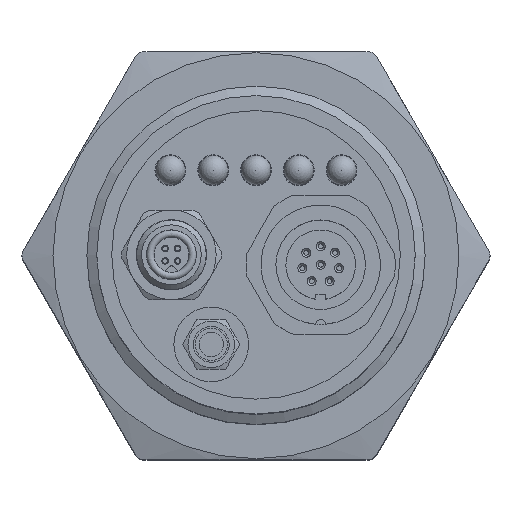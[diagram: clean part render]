
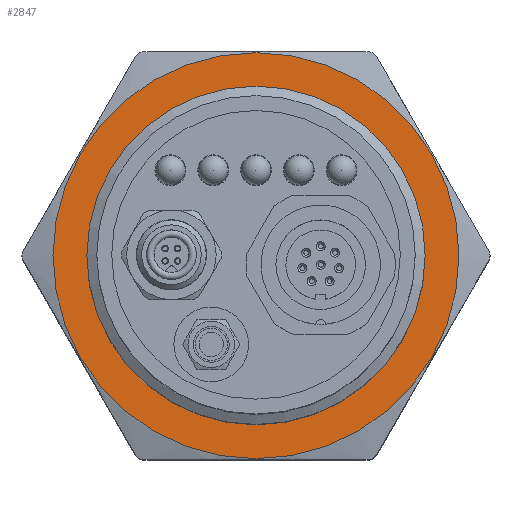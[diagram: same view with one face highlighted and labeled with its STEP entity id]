
A CAD part, top view. The second image highlights one B-rep face of the part: STEP entity #2847.
In plain terms, the highlighted planar face has unit normal (0, 0, 1).
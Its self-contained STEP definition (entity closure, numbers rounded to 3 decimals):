
#632=FACE_BOUND($,#1023,.T.);
#633=FACE_BOUND($,#1024,.T.);
#1023=EDGE_LOOP($,(#2287));
#1024=EDGE_LOOP($,(#2288));
#1297=CIRCLE($,#3138,17.);
#1298=CIRCLE($,#3139,20.4);
#1508=VERTEX_POINT($,#4735);
#1509=VERTEX_POINT($,#4737);
#1812=EDGE_CURVE($,#1508,#1508,#1297,.T.);
#1813=EDGE_CURVE($,#1509,#1509,#1298,.T.);
#2287=ORIENTED_EDGE($,*,*,#1812,.T.);
#2288=ORIENTED_EDGE($,*,*,#1813,.T.);
#2716=PLANE($,#3137);
#2847=ADVANCED_FACE($,(#632,#633),#2716,.T.);
#3137=AXIS2_PLACEMENT_3D($,#4734,#3718,#3719);
#3138=AXIS2_PLACEMENT_3D($,#4736,#3720,#3721);
#3139=AXIS2_PLACEMENT_3D($,#4738,#3722,#3723);
#3718=DIRECTION('center_axis',(0.,0.,
1.));
#3719=DIRECTION('ref_axis',(0.,1.,0.));
#3720=DIRECTION('center_axis',(0.,0.,
-1.));
#3721=DIRECTION('ref_axis',(-1.,0.,0.));
#3722=DIRECTION('center_axis',(0.,0.,
1.));
#3723=DIRECTION('ref_axis',(1.,0.,0.));
#4734=CARTESIAN_POINT('Origin',(0.,0.,
80.));
#4735=CARTESIAN_POINT('',(17.,0.,80.));
#4736=CARTESIAN_POINT('Origin',(0.,0.,
80.));
#4737=CARTESIAN_POINT('',(20.4,0.,80.));
#4738=CARTESIAN_POINT('Origin',(0.,0.,
80.));
